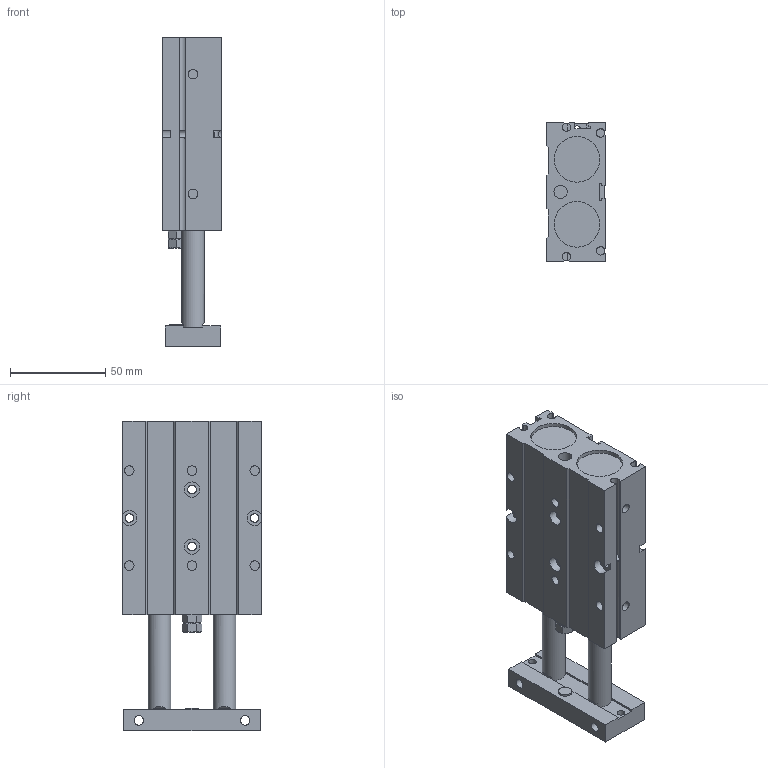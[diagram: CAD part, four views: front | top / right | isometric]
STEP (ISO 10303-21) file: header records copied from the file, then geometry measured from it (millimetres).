
FILE_DESCRIPTION((''),'2;1');
FILE_NAME('I:\3D電子目錄\氣缸\TD\TD25\TD25\TD25x40.stp','2007-08-06T09:53:24',('Administrator'),(''),'Autodesk Inventor 2008','Autodesk Inventor 2008','');
FILE_SCHEMA(('AUTOMOTIVE_DESIGN { 1 0 10303 214 1 1 1 1 }'));
Length unit declared in the file: millimetre
Products named in the file (1): TD25X40
Bounding box: 31 x 73 x 163 mm (x, y, z)
Volume: 240314.2 mm3; surface area: 46968 mm2
Topology: 1 solids, 3 shells, 197 faces, 494 edges, 324 vertices
Faces by surface type: plane 132, cylinder 52, cone 7, bspline 4, torus 2
Full cylindrical faces by diameter (mm): 4 x2, 4.5 x4, 5 x10, 7 x2, 8 x4, 10 x2, 11 x2, 12 x4, 24 x4
Entity records: 6021 total; most frequent: CARTESIAN_POINT 1449, DIRECTION 915, ORIENTED_EDGE 878, EDGE_CURVE 439, VERTEX_POINT 314, AXIS2_PLACEMENT_3D 312, VECTOR 291, LINE 291
